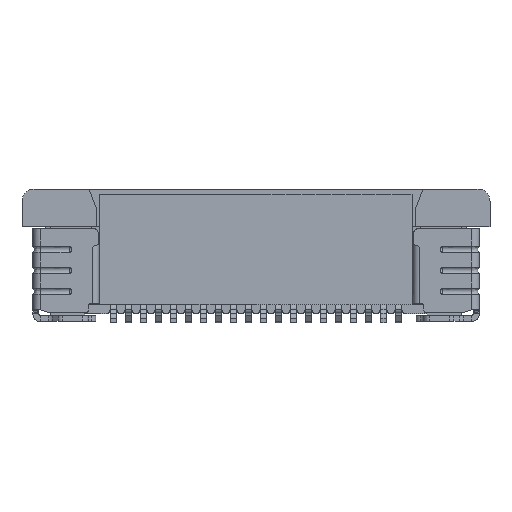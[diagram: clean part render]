
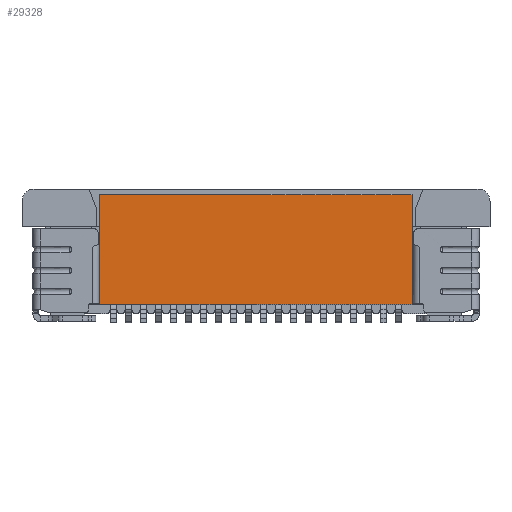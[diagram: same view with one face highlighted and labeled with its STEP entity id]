
A CAD part, front view. The second image highlights one B-rep face of the part: STEP entity #29328.
In plain terms, the highlighted planar face has unit normal (0, -1, 0).
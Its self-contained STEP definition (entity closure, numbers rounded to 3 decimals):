
#6189 = DIRECTION ( 'NONE',  ( 0., 0., 1. ) ) ;
#8027 = EDGE_CURVE ( 'NONE', #74860, #33822, #21954, .T. ) ;
#8220 = DIRECTION ( 'NONE',  ( 0., 1., 0. ) ) ;
#10311 = ORIENTED_EDGE ( 'NONE', *, *, #8027, .T. ) ;
#15422 = EDGE_CURVE ( 'NONE', #35762, #96102, #55153, .T. ) ;
#18941 = CARTESIAN_POINT ( 'NONE',  ( 12.05, -1., 0. ) ) ;
#21954 = LINE ( 'NONE', #86030, #65366 ) ;
#25295 = ORIENTED_EDGE ( 'NONE', *, *, #15422, .T. ) ;
#29328 = ADVANCED_FACE ( 'NONE', ( #103250 ), #57112, .F. ) ;
#31465 = DIRECTION ( 'NONE',  ( 0., 0., -1. ) ) ;
#31726 = EDGE_LOOP ( 'NONE', ( #35268, #25295, #44390, #10311 ) ) ;
#31853 = CARTESIAN_POINT ( 'NONE',  ( 6.85, -1., -1.83 ) ) ;
#31982 = CARTESIAN_POINT ( 'NONE',  ( 1.65, -1., 0. ) ) ;
#33822 = VERTEX_POINT ( 'NONE', #72946 ) ;
#35268 = ORIENTED_EDGE ( 'NONE', *, *, #85641, .T. ) ;
#35762 = VERTEX_POINT ( 'NONE', #89496 ) ;
#37275 = CARTESIAN_POINT ( 'NONE',  ( 1.65, -1., -3.66 ) ) ;
#39403 = DIRECTION ( 'NONE',  ( 1., 0., 0. ) ) ;
#40235 = DIRECTION ( 'NONE',  ( 1., 0., 0. ) ) ;
#44390 = ORIENTED_EDGE ( 'NONE', *, *, #64969, .T. ) ;
#49457 = DIRECTION ( 'NONE',  ( -1., 0., 0. ) ) ;
#55153 = LINE ( 'NONE', #31982, #80881 ) ;
#57112 = PLANE ( 'NONE',  #76526 ) ;
#64969 = EDGE_CURVE ( 'NONE', #96102, #74860, #101942, .T. ) ;
#65366 = VECTOR ( 'NONE', #6189, 1000. ) ;
#68377 = CARTESIAN_POINT ( 'NONE',  ( 12.05, -1., -3.66 ) ) ;
#72946 = CARTESIAN_POINT ( 'NONE',  ( 12.05, -1., 0. ) ) ;
#73640 = VECTOR ( 'NONE', #49457, 1000. ) ;
#74860 = VERTEX_POINT ( 'NONE', #68377 ) ;
#76526 = AXIS2_PLACEMENT_3D ( 'NONE', #31853, #8220, #40235 ) ;
#79359 = CARTESIAN_POINT ( 'NONE',  ( 1.65, -1., -3.66 ) ) ;
#80881 = VECTOR ( 'NONE', #31465, 1000. ) ;
#85641 = EDGE_CURVE ( 'NONE', #33822, #35762, #90896, .T. ) ;
#86030 = CARTESIAN_POINT ( 'NONE',  ( 12.05, -1., -3.66 ) ) ;
#87420 = VECTOR ( 'NONE', #39403, 1000. ) ;
#89496 = CARTESIAN_POINT ( 'NONE',  ( 1.65, -1., 0. ) ) ;
#90896 = LINE ( 'NONE', #18941, #73640 ) ;
#96102 = VERTEX_POINT ( 'NONE', #37275 ) ;
#101942 = LINE ( 'NONE', #79359, #87420 ) ;
#103250 = FACE_OUTER_BOUND ( 'NONE', #31726, .T. ) ;
